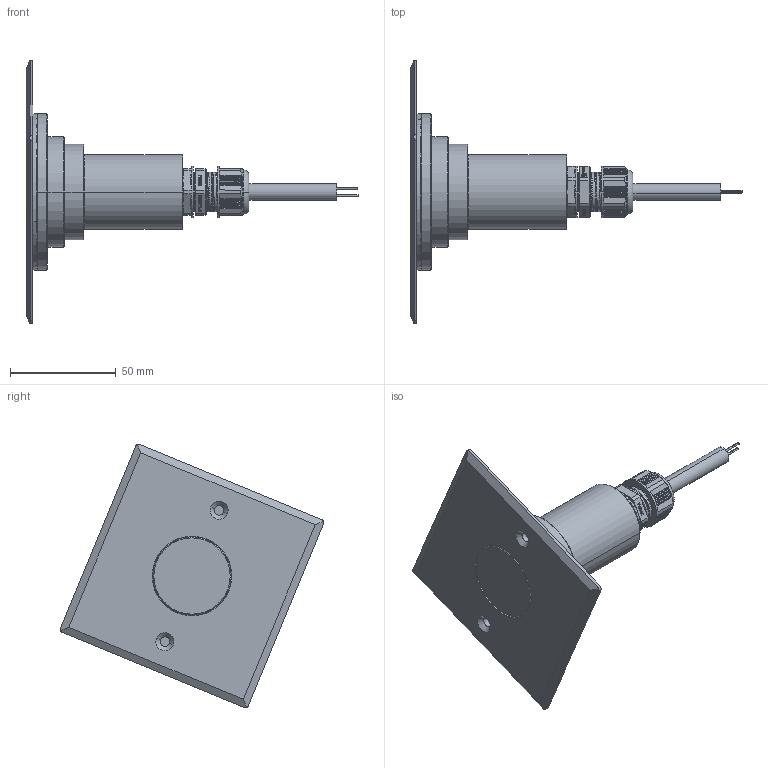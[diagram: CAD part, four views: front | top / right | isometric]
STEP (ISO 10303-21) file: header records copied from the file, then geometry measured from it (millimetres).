
FILE_DESCRIPTION (( 'STEP AP203' ), '1' );
FILE_NAME ('GROUND-STANDARD-BRASS-SQ2.STEP', '2023-03-17T06:01:55', ( '' ), ( '' ), 'SwSTEP 2.0', 'SolidWorks 2017', '' );
FILE_SCHEMA (( 'CONFIG_CONTROL_DESIGN' ));
Length unit declared in the file: millimetre
Products named in the file (7): DK140202DD04_4; DK151112MD03D_1; GROUND-STANDARD-BRASS-SQ2; PRZEWOD 2_4; DK151112MD04D_1; gla-35_asm_3; M1610B_4
Assembly tree (6 placements, depth 2):
  GROUND-STANDARD-BRASS-SQ2
    DK151112MD04D_1
    gla-35_asm_3
    DK151112MD03D_1
    M1610B_4
    PRZEWOD 2_4
    DK140202DD04_4
Bounding box: 156.6 x 124.16 x 124.16 mm (x, y, z)
Volume: 95926 mm3; surface area: 57001.8 mm2
Topology: 4 solids, 35 shells, 1344 faces, 3521 edges, 2286 vertices
Faces by surface type: plane 700, bspline 408, cylinder 128, cone 100, torus 8
Entity records: 53815 total; most frequent: CARTESIAN_POINT 23371, ORIENTED_EDGE 6946, DIRECTION 4623, EDGE_CURVE 3507, VERTEX_POINT 2283, LINE 1897, VECTOR 1897, EDGE_LOOP 1462
